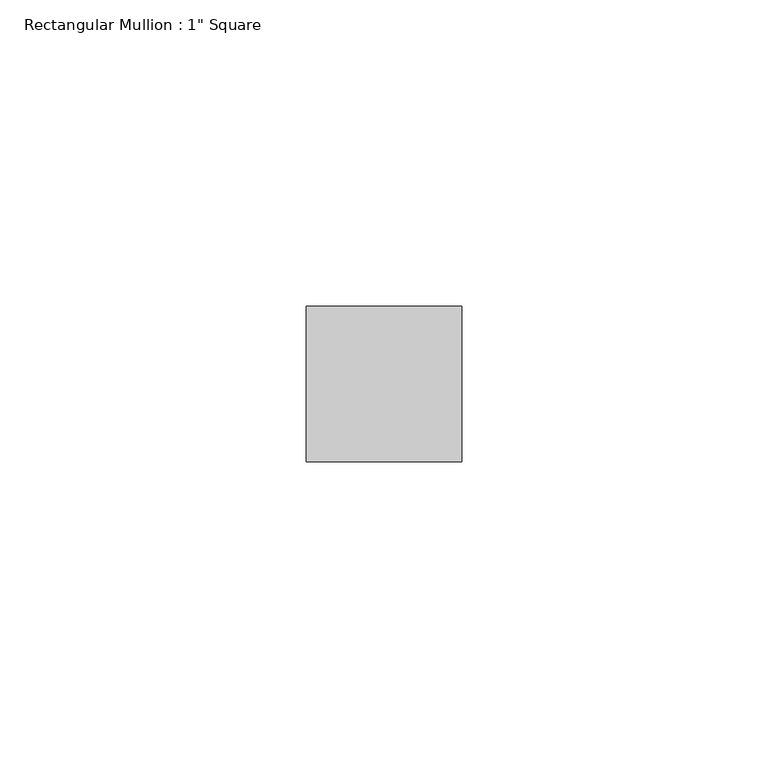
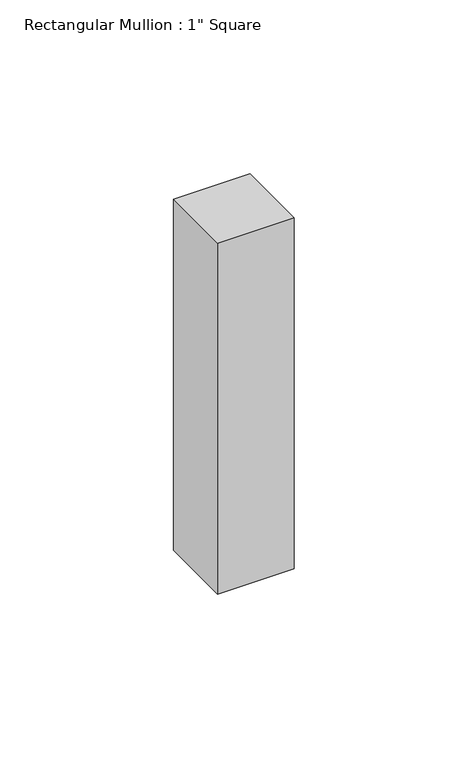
"""IFC4 building model written with IfcOpenShell, lengths in millimetres: member geometry."""

import ifcopenshell
import ifcopenshell.guid

model = None  # the IFC model being written
_history = None  # IfcOwnerHistory: only IFC2X3 demands one
_inside = {}  # id of a spatial element -> (the spatial element, [elements in it])
_under = {}  # id of a project, library or spatial element -> (it, [spatial elements below it])
_declared = {}  # id of a project -> (the project, [libraries it declares])
_typed = {}  # id of a type object -> (the type object, [elements of that type])
_made_of = {}  # id of a material, layer set ... -> (it, [elements and type objects made of it])


def new_model(schema):
    """Start an empty IFC model of exactly this schema.

    Asked for "IFC4X3", IfcOpenShell would pick the latest addendum, in which some entities
    have other attributes; the version numbers below select the first issue.
    IFC2X3 requires an IfcOwnerHistory on every rooted entity: one is made here for all.
    """
    global model, _history
    if schema == "IFC4X3":
        model = ifcopenshell.file(schema_version=(4, 3, 0, 0))
    else:
        model = ifcopenshell.file(schema=schema)
    _inside.clear()
    _under.clear()
    _declared.clear()
    _typed.clear()
    _made_of.clear()
    _history = None
    if model.schema == "IFC2X3":
        org = make("IfcOrganization", Name="unknown")
        user = make(
            "IfcPersonAndOrganization",
            ThePerson=make("IfcPerson", FamilyName="unknown"),
            TheOrganization=org,
        )
        app = make(
            "IfcApplication",
            ApplicationDeveloper=org,
            Version="unknown",
            ApplicationFullName="unknown",
            ApplicationIdentifier="unknown",
        )
        _history = make(
            "IfcOwnerHistory",
            OwningUser=user,
            OwningApplication=app,
            ChangeAction="ADDED",
            CreationDate=0,
        )
    return model


def make(cls, **values):
    """One entity of the class cls with the attributes given. An attribute that is None is left unset."""
    return model.create_entity(
        cls, **{name: value for name, value in values.items() if value is not None}
    )


def rooted(cls, **values):
    """An entity with a GlobalId (a new one), such as an element, a storey or a relation."""
    return make(cls, GlobalId=ifcopenshell.guid.new(), OwnerHistory=_history, **values)


def si_unit(unit_type, name, prefix=None):
    """IfcSIUnit, for example si_unit("LENGTHUNIT", "METRE", prefix="MILLI")."""
    return make("IfcSIUnit", UnitType=unit_type, Prefix=prefix, Name=name)


def assignment(units):
    """IfcUnitAssignment: the units of a project."""
    return None if units is None else make("IfcUnitAssignment", Units=units)


def point(xyz):
    """IfcCartesianPoint."""
    return None if xyz is None else make("IfcCartesianPoint", Coordinates=xyz)


def direction(xyz):
    """IfcDirection."""
    return None if xyz is None else make("IfcDirection", DirectionRatios=xyz)


def frame(location, z_axis=None, x_axis=None):
    """IfcAxis2Placement3D, a coordinate frame: its origin and axes. An axis left out is left unset."""
    return make(
        "IfcAxis2Placement3D",
        Location=point(location),
        Axis=direction(z_axis),
        RefDirection=direction(x_axis),
    )


def origin():
    """The frame at (0, 0, 0) with its axes left unset."""
    return frame((0.0, 0.0, 0.0))


def place(relative_to, where):
    """IfcLocalPlacement: puts the frame where relative to a parent placement (None: the world)."""
    return make(
        "IfcLocalPlacement", PlacementRelTo=relative_to, RelativePlacement=where
    )


def context(
    kind, dimensions, precision=None, world=None, true_north=None, identifier=None
):
    """IfcGeometricRepresentationContext, for example the 3D "Model" context."""
    return make(
        "IfcGeometricRepresentationContext",
        ContextIdentifier=identifier,
        ContextType=kind,
        CoordinateSpaceDimension=dimensions,
        Precision=precision,
        WorldCoordinateSystem=world,
        TrueNorth=true_north,
    )


def project(units=None, contexts=None):
    """IfcProject with its units and contexts."""
    return rooted(
        "IfcProject",
        Name="project",
        RepresentationContexts=contexts,
        UnitsInContext=assignment(units),
    )


def spatial(cls, under=None, at=None, **own):
    """A site, building, storey or space (cls), placed at a placement, below another one or the project."""
    s = rooted(cls, ObjectPlacement=at, **own)
    if under is not None:
        _under.setdefault(under.id(), (under, []))[1].append(s)
    return s


def polyline(points):
    """IfcPolyline through the points."""
    return make("IfcPolyline", Points=[point(p) for p in points])


def outline(outer, holes=None, kind="AREA"):
    """IfcArbitraryClosedProfileDef: a profile drawn as a closed curve; with holes, ...WithVoids."""
    if holes is None:
        return make("IfcArbitraryClosedProfileDef", ProfileType=kind, OuterCurve=outer)
    return make(
        "IfcArbitraryProfileDefWithVoids",
        ProfileType=kind,
        OuterCurve=outer,
        InnerCurves=holes,
    )


def extrude(swept, where, along, depth):
    """IfcExtrudedAreaSolid: the profile swept, set in the frame where, extruded along a direction by depth."""
    return make(
        "IfcExtrudedAreaSolid",
        SweptArea=swept,
        Position=where,
        ExtrudedDirection=direction(along),
        Depth=depth,
    )


def shape(context_of_items, identifier, shape_type, items):
    """IfcShapeRepresentation: the items that make up one representation, for example the "Body"."""
    return make(
        "IfcShapeRepresentation",
        ContextOfItems=context_of_items,
        RepresentationIdentifier=identifier,
        RepresentationType=shape_type,
        Items=items,
    )


def source(mapping_origin, context_of_items, identifier, shape_type, items):
    """IfcRepresentationMap: a shape defined once, which mapped items show again and again."""
    return make(
        "IfcRepresentationMap",
        MappingOrigin=mapping_origin,
        MappedRepresentation=shape(context_of_items, identifier, shape_type, items),
    )


def transform(
    local_origin,
    x_axis=None,
    y_axis=None,
    z_axis=None,
    scale=None,
    scale2=None,
    scale3=None,
    uniform=True,
):
    """IfcCartesianTransformationOperator3D, or its non-uniform kind. x_axis, y_axis, z_axis: its Axis1, 2, 3."""
    if uniform:
        return make(
            "IfcCartesianTransformationOperator3D",
            Axis1=direction(x_axis),
            Axis2=direction(y_axis),
            LocalOrigin=point(local_origin),
            Scale=scale,
            Axis3=direction(z_axis),
        )
    return make(
        "IfcCartesianTransformationOperator3DnonUniform",
        Axis1=direction(x_axis),
        Axis2=direction(y_axis),
        LocalOrigin=point(local_origin),
        Scale=scale,
        Axis3=direction(z_axis),
        Scale2=scale2,
        Scale3=scale3,
    )


def mapped(mapping_source, mapping_target):
    """IfcMappedItem: shows the shape of a source again, moved by a transform."""
    return make(
        "IfcMappedItem", MappingSource=mapping_source, MappingTarget=mapping_target
    )


def made_of(thing, what):
    """Note that an element or type object is made of a material, layer set ...; save() writes the relation."""
    if what is not None:
        _made_of.setdefault(what.id(), (what, []))[1].append(thing)
    return thing


def element(
    cls,
    number,
    at=None,
    inside=None,
    cuts=None,
    type_object=None,
    material=None,
    context=None,
    identifier="Body",
    shape_type=None,
    held_by="IfcProductDefinitionShape",
    body=None,
    shapes=None,
    **own,
):
    """One element of the class cls, such as IfcWall. Its Tag is "e" and its number.

    at: its placement. inside: the storey or other place that contains it. cuts: it is an
    opening in that element (IfcRelVoidsElement). A single representation is given by context,
    identifier, shape_type and body (its items); several are given by shapes. held_by: the class
    of the entity that holds the representations. save() writes the other relations.
    """
    e = rooted(cls, Tag="e%d" % number, ObjectPlacement=at, **own)
    if body is not None:
        shapes = [shape(context, identifier, shape_type, body)]
    if shapes is not None:
        e.Representation = make(held_by, Representations=shapes)
    if inside is not None:
        _inside.setdefault(inside.id(), (inside, []))[1].append(e)
    if cuts is not None:
        rooted(
            "IfcRelVoidsElement", RelatingBuildingElement=cuts, RelatedOpeningElement=e
        )
    if type_object is not None:
        _typed.setdefault(type_object.id(), (type_object, []))[1].append(e)
    return made_of(e, material)


def aggregate(whole, parts):
    """IfcRelAggregates: a whole, such as a stair, and the parts it consists of."""
    return rooted("IfcRelAggregates", RelatingObject=whole, RelatedObjects=parts)


def save(model, path):
    """Write the relations noted so far, then the file.

    IfcRelAggregates (storeys below a building ...), IfcRelContainedInSpatialStructure (elements
    in a storey), IfcRelDefinesByType, IfcRelAssociatesMaterial and IfcRelDeclares: one each for
    every whole, place, type object, material and project.
    """
    for whole, parts in _under.values():
        aggregate(whole, parts)
    for where, things in _inside.values():
        rooted(
            "IfcRelContainedInSpatialStructure",
            RelatedElements=things,
            RelatingStructure=where,
        )
    for kind, things in _typed.values():
        rooted("IfcRelDefinesByType", RelatedObjects=things, RelatingType=kind)
    for what, things in _made_of.values():
        rooted("IfcRelAssociatesMaterial", RelatedObjects=things, RelatingMaterial=what)
    for by, libraries in _declared.values():
        rooted("IfcRelDeclares", RelatingContext=by, RelatedDefinitions=libraries)
    model.write(path)


def member_2c5cd547(model_context):
    return source(origin(), model_context, "Body", "SweptSolid", [
        extrude(outline(polyline([(12.7, 12.7), (12.7, -12.7), (-12.7, -12.7), (-12.7, 12.7), (12.7, 12.7)])), frame((0.0, 0.0, -123.3128235), z_axis=(0.0, 0.0, 1.0), x_axis=(1.0, 0.0, 0.0)), (0.0, 0.0, 1.0), 123.3128235),
    ])


if __name__ == "__main__":
    model = new_model("IFC4")
    model_context = context("Model", 3, world=origin())
    ifc_project = project(units=[si_unit("LENGTHUNIT", "METRE", prefix="MILLI")], contexts=[model_context])
    site = spatial("IfcSite", under=ifc_project)
    building = spatial("IfcBuilding", under=site)
    placement = place(None, origin())
    member_shape = member_2c5cd547(model_context)
    element("IfcMember", 1, ObjectType="Rectangular Mullion : 1\" Square", at=placement, inside=building, context=model_context, shape_type="MappedRepresentation", body=[
        mapped(member_shape, transform((0.0, 0.0, 0.0), x_axis=(1.0, 0.0, 0.0), y_axis=(0.0, 1.0, 0.0), z_axis=(0.0, 0.0, 1.0))),
    ])
    save(model, "model.ifc")
